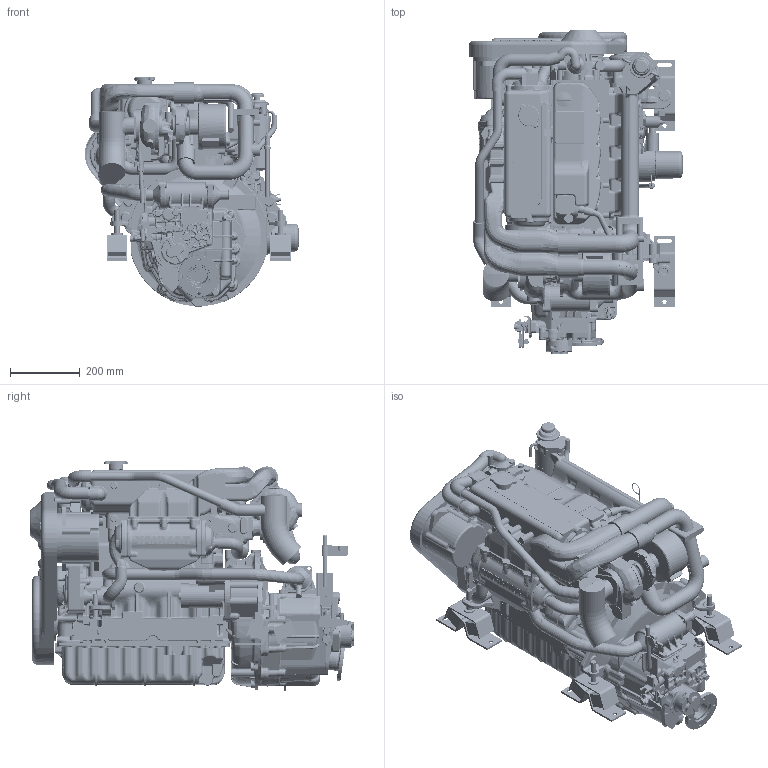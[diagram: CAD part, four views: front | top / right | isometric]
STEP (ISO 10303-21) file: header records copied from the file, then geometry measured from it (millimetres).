
FILE_DESCRIPTION(('OneSpaceDesigner STEP Export'),'2;1');
FILE_NAME('JH4T_4JH4HTE_KMH4A_R2005.11.stp','2005-11-22T19:46:03',(''),(''),'OneSpace Designer STEP processor for AP214 (Solid Model)','OneSpace Designer 13.00 26-Oct-2004 (C) CoCreate Software GmbH','');
FILE_SCHEMA(('AUTOMOTIVE_DESIGN { 1 0 10303 214 1 1 1 1 }'));
Length unit declared in the file: millimetre
Products named in the file (78): Part_201; Part_202; Part_203; Part_204; Part_205; Part_206; 200; Part_706; Part_707; Part_701; Part_702; Part_703; Part_704; Part_705; 700; Part_101; Part_102; Part_105; Part_104; Part_103; 100; Part_009; Part_001; Part_004; Part_003; Part_002; Part_005; Part_008; Part_006; Part_007; 000; Part_605; Part_604; Part_601; Part_602; Part_603; 600; Part_502; Part_503; Part_501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
Assembly tree (77 placements, depth 3):
  JH4T_4JH4HTE_KMH4A_R2005.11
    300
      Part_314
      Part_319
      Part_318
      Part_317
      Part_316
      Part_304
      Part_310
      Part_309
      Part_301
      Part_311
      Part_307
      Part_302
      Part_306
      Part_305
      Part_312
      Part_303
      Part_308
      Part_313
      Part_320
    Center_of_gravity
      C.O.G._P5
      C.O.G._P6
      C.O.G._P4
      C.O.G._P3
      C.O.G._P2
      C.O.G._P1
    400
      Part_403
      Part_404
      Part_402
      Part_406
      Part_405
      Part_407
      Part_401
    500
      Part_504
      Part_501
      Part_503
      Part_502
    600
      Part_603
      Part_602
      Part_601
      Part_604
      Part_605
    000
      Part_007
      Part_006
      Part_008
      Part_005
      Part_002
      Part_003
      Part_004
      Part_001
      Part_009
    100
      Part_103
      Part_104
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Bounding box: 616.1 x 933.05 x 658.55 mm (x, y, z)
Volume: 91840286.3 mm3; surface area: 6448328.4 mm2
Topology: 63 solids, 74 shells, 19644 faces, 49862 edges, 30308 vertices
Faces by surface type: cylinder 6396, plane 4492, bspline 4335, torus 2408, sphere 752, revolution 654, cone 597, extrusion 10
Entity records: 805294 total; most frequent: CARTESIAN_POINT 390538, ORIENTED_EDGE 99313, DIRECTION 72944, EDGE_CURVE 49726, VERTEX_POINT 30306, AXIS2_PLACEMENT_3D 27906, EDGE_LOOP 19860, FACE_OUTER_BOUND 19644
